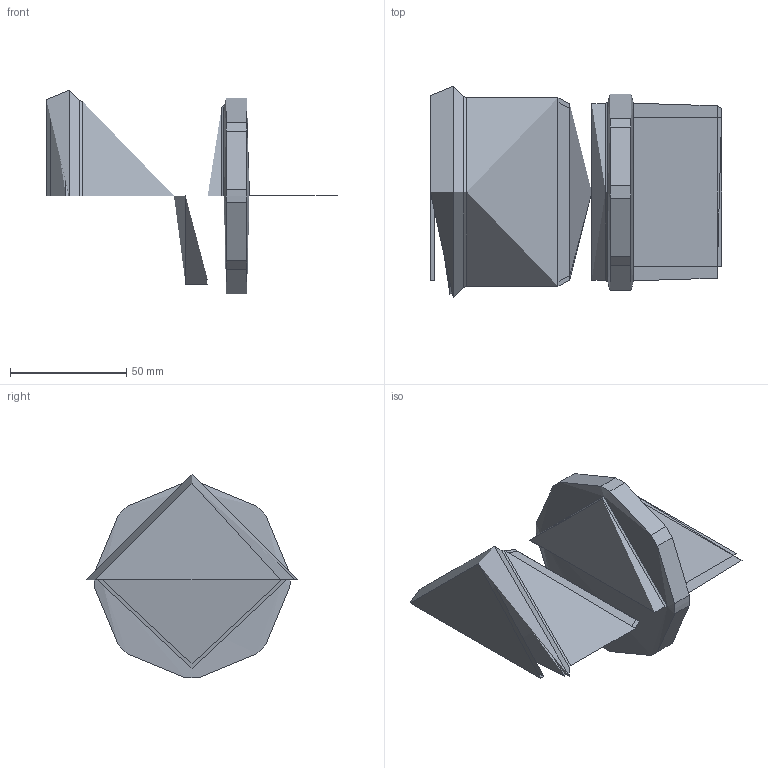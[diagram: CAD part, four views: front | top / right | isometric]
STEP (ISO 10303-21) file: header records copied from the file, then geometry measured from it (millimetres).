
FILE_DESCRIPTION(('FreeCAD Model'),'2;1');
FILE_NAME('Open CASCADE Shape Model','2025-10-20T15:01:20',('Author'),( ''),'Open CASCADE STEP processor 7.8','FreeCAD','Unknown');
FILE_SCHEMA(('AUTOMOTIVE_DESIGN { 1 0 10303 214 1 1 1 1 }'));
Length unit declared in the file: millimetre
Products named in the file (7): Unnamed154; COMPOUND; COMPOUND001; X-Achse; XY-Ebene; COMPOUND002; COMPOUND003
Assembly tree (18 placements, depth 3):
  Unnamed154
    COMPOUND
    COMPOUND001
      COMPOUND
    X-Achse  x6
    XY-Ebene  x6
    COMPOUND002
    COMPOUND003
      COMPOUND002
Bounding box: 125.5 x 91.2 x 87.76 mm (x, y, z)
Volume: 219952.3 mm3; surface area: 135834.9 mm2
Topology: 4 solids, 4 shells, 86 faces, 268 edges, 186 vertices
Faces by surface type: bspline 86
Entity records: 2046 total; most frequent: CARTESIAN_POINT 1144, ORIENTED_EDGE 262, EDGE_CURVE 131, VERTEX_POINT 93, FACE_BOUND 48, EDGE_LOOP 48, ADVANCED_FACE 43, DIRECTION 39
